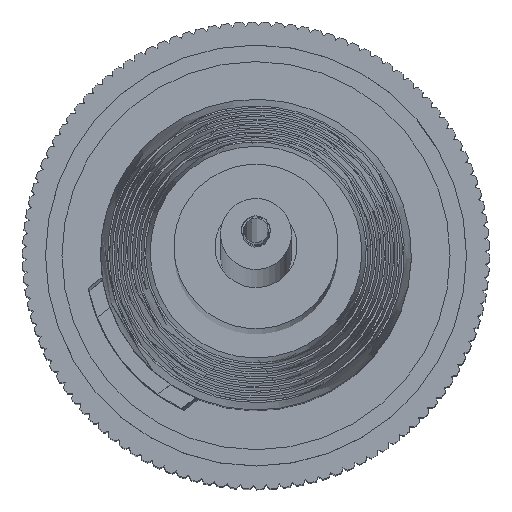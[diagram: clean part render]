
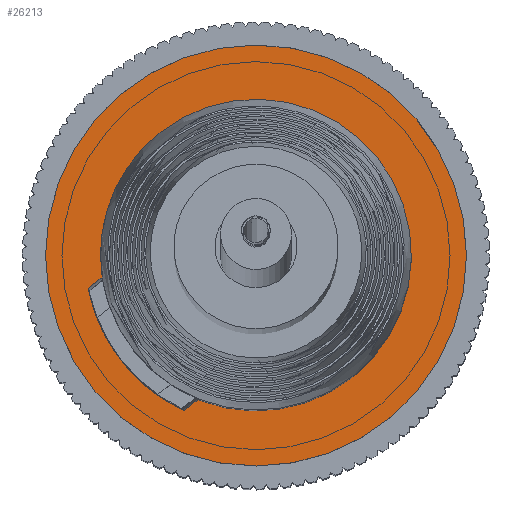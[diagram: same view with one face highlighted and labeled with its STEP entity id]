
A CAD part, top view. The second image highlights one B-rep face of the part: STEP entity #26213.
In plain terms, the highlighted planar face has unit normal (0, 0, 1).
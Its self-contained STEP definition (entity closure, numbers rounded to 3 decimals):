
#740 = CIRCLE ( 'NONE', #26082, 4.064 ) ;
#1117 = ORIENTED_EDGE ( 'NONE', *, *, #2329, .T. ) ;
#1672 = CIRCLE ( 'NONE', #11095, 2.121 ) ;
#1941 = FACE_BOUND ( 'NONE', #5314, .T. ) ;
#2066 = AXIS2_PLACEMENT_3D ( 'NONE', #7164, #21703, #9313 ) ;
#2329 = EDGE_CURVE ( 'NONE', #22685, #22685, #740, .T. ) ;
#5314 = EDGE_LOOP ( 'NONE', ( #19445 ) ) ;
#6544 = CARTESIAN_POINT ( 'NONE',  ( 1.627, -1.361, -260.239 ) ) ;
#7145 = EDGE_LOOP ( 'NONE', ( #1117 ) ) ;
#7164 = CARTESIAN_POINT ( 'NONE',  ( 0., 0., -260.239 ) ) ;
#9313 = DIRECTION ( 'NONE',  ( 0.767, -0.642, 0. ) ) ;
#9849 = CARTESIAN_POINT ( 'NONE',  ( 0., 0., -260.239 ) ) ;
#11095 = AXIS2_PLACEMENT_3D ( 'NONE', #23941, #11589, #26044 ) ;
#11323 = PLANE ( 'NONE',  #2066 ) ;
#11589 = DIRECTION ( 'NONE',  ( 0., 0., 1. ) ) ;
#11923 = DIRECTION ( 'NONE',  ( 0.767, -0.642, 0. ) ) ;
#14776 = CARTESIAN_POINT ( 'NONE',  ( 3.117, -2.608, -260.239 ) ) ;
#15315 = VERTEX_POINT ( 'NONE', #6544 ) ;
#15990 = EDGE_CURVE ( 'NONE', #15315, #15315, #1672, .T. ) ;
#19445 = ORIENTED_EDGE ( 'NONE', *, *, #15990, .F. ) ;
#21703 = DIRECTION ( 'NONE',  ( 0., 0., 1. ) ) ;
#22685 = VERTEX_POINT ( 'NONE', #14776 ) ;
#23397 = FACE_OUTER_BOUND ( 'NONE', #7145, .T. ) ;
#23941 = CARTESIAN_POINT ( 'NONE',  ( 0., 0., -260.239 ) ) ;
#24297 = DIRECTION ( 'NONE',  ( 0., 0., 1. ) ) ;
#26044 = DIRECTION ( 'NONE',  ( 0.767, -0.642, 0. ) ) ;
#26082 = AXIS2_PLACEMENT_3D ( 'NONE', #9849, #24297, #11923 ) ;
#26213 = ADVANCED_FACE ( 'NONE', ( #23397, #1941 ), #11323, .T. ) ;
